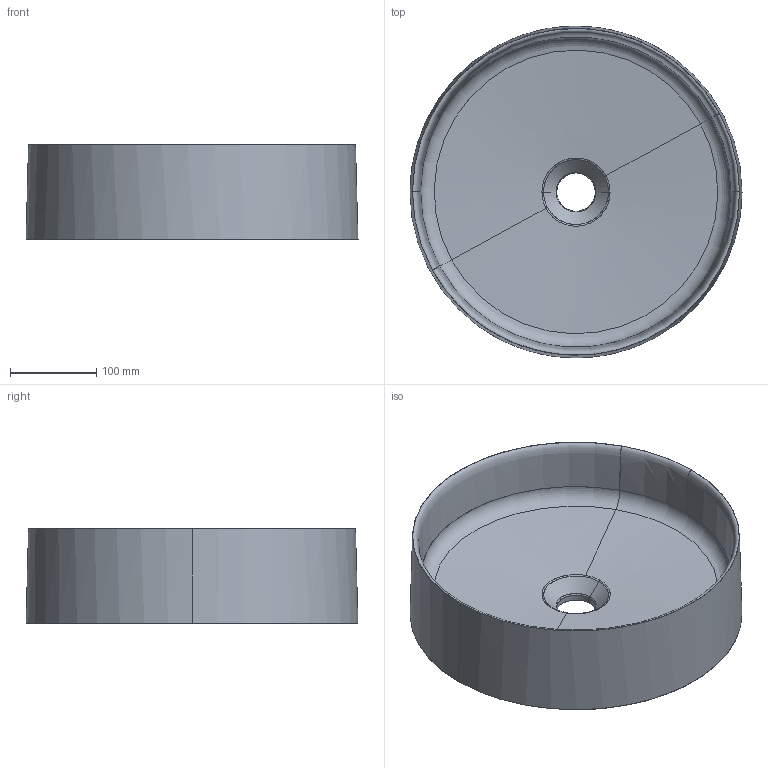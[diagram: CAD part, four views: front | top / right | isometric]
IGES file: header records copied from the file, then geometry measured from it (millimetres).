
Start section: START RECORD GO HERE.
Global section: file name: 7405_tondo 38.igs; native system: DASSAULT SYSTEMES CATIA V5 R19 - www.3ds.com; preprocessor: CATIA Version 5 Release 19 SP 5 ; author: gioge; organization: LAPTOP-G94B6G74; date: 20200630.143537; units: millimetre
Bounding box: 385.76 x 385.73 x 110 mm (x, y, z)
Surface area: 458661.9 mm2 (no closed solid volume)
Topology: 0 solids, 0 shells, 48 faces, 206 edges, 206 vertices
Faces by surface type: bspline 34, revolution 10, plane 4
